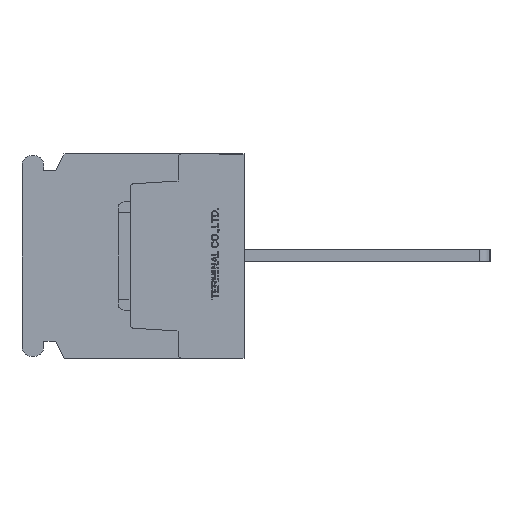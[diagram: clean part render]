
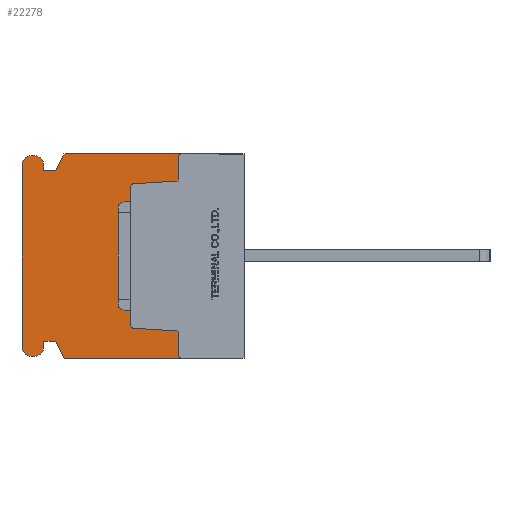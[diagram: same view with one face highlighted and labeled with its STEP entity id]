
A CAD part, left-side view. The second image highlights one B-rep face of the part: STEP entity #22278.
In plain terms, the highlighted planar face has unit normal (-1, 0, 0).
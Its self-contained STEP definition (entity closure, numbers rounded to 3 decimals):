
#1329=CIRCLE('',#23876,0.3);
#1331=CIRCLE('',#23880,0.3);
#1333=CIRCLE('',#23885,0.3);
#1335=CIRCLE('',#23888,0.3);
#1344=CIRCLE('',#24045,0.75);
#1345=CIRCLE('',#24046,0.75);
#1346=CIRCLE('',#24047,0.75);
#1347=CIRCLE('',#24048,0.75);
#2592=VERTEX_POINT('',#33441);
#2593=VERTEX_POINT('',#33443);
#2631=VERTEX_POINT('',#33527);
#2632=VERTEX_POINT('',#33529);
#3089=VERTEX_POINT('',#35135);
#3090=VERTEX_POINT('',#35136);
#3093=VERTEX_POINT('',#35144);
#3107=VERTEX_POINT('',#35174);
#3109=VERTEX_POINT('',#35180);
#3111=VERTEX_POINT('',#35186);
#3113=VERTEX_POINT('',#35192);
#3115=VERTEX_POINT('',#35201);
#3462=VERTEX_POINT('',#36743);
#3463=VERTEX_POINT('',#36745);
#3464=VERTEX_POINT('',#36747);
#3465=VERTEX_POINT('',#36749);
#3466=VERTEX_POINT('',#36751);
#3467=VERTEX_POINT('',#36753);
#3468=VERTEX_POINT('',#36755);
#3469=VERTEX_POINT('',#36757);
#3470=VERTEX_POINT('',#36759);
#3471=VERTEX_POINT('',#36761);
#3472=VERTEX_POINT('',#36763);
#3473=VERTEX_POINT('',#36765);
#4862=VECTOR('',#26849,1.);
#4906=VECTOR('',#26897,1.);
#5370=VECTOR('',#28196,1.);
#5387=VECTOR('',#28220,1.);
#5391=VECTOR('',#28231,1.);
#5394=VECTOR('',#28235,1.);
#5398=VECTOR('',#28252,1.);
#5811=VECTOR('',#28830,1.);
#5812=VECTOR('',#28831,1.);
#5813=VECTOR('',#28832,1.);
#5814=VECTOR('',#28835,1.);
#5815=VECTOR('',#28838,1.);
#5816=VECTOR('',#28841,1.);
#5817=VECTOR('',#28844,1.);
#5818=VECTOR('',#28845,1.);
#5819=VECTOR('',#28846,1.);
#7192=LINE('',#33442,#4862);
#7236=LINE('',#33528,#4906);
#7700=LINE('',#35134,#5370);
#7717=LINE('',#35173,#5387);
#7721=LINE('',#35185,#5391);
#7724=LINE('',#35191,#5394);
#7728=LINE('',#35206,#5398);
#8141=LINE('',#36742,#5811);
#8142=LINE('',#36744,#5812);
#8143=LINE('',#36746,#5813);
#8144=LINE('',#36750,#5814);
#8145=LINE('',#36754,#5815);
#8146=LINE('',#36758,#5816);
#8147=LINE('',#36762,#5817);
#8148=LINE('',#36764,#5818);
#8149=LINE('',#36766,#5819);
#10043=EDGE_CURVE('',#2592,#2593,#7192,.T.);
#10088=EDGE_CURVE('',#2631,#2632,#7236,.T.);
#10807=EDGE_CURVE('',#3089,#3090,#7700,.T.);
#10811=EDGE_CURVE('',#3093,#3089,#1329,.T.);
#10826=EDGE_CURVE('',#3107,#3093,#7717,.T.);
#10829=EDGE_CURVE('',#3109,#3107,#1331,.T.);
#10832=EDGE_CURVE('',#3111,#3109,#7721,.T.);
#10835=EDGE_CURVE('',#3113,#3111,#7724,.T.);
#10838=EDGE_CURVE('',#2632,#3113,#1333,.T.);
#10840=EDGE_CURVE('',#3115,#2592,#1335,.T.);
#10843=EDGE_CURVE('',#3090,#3115,#7728,.T.);
#11367=EDGE_CURVE('',#3462,#2631,#8141,.T.);
#11368=EDGE_CURVE('',#3463,#3462,#8142,.T.);
#11369=EDGE_CURVE('',#3464,#3463,#8143,.T.);
#11370=EDGE_CURVE('',#3465,#3464,#1344,.T.);
#11371=EDGE_CURVE('',#3466,#3465,#8144,.T.);
#11372=EDGE_CURVE('',#3467,#3466,#1345,.T.);
#11373=EDGE_CURVE('',#3468,#3467,#8145,.T.);
#11374=EDGE_CURVE('',#3469,#3468,#1346,.T.);
#11375=EDGE_CURVE('',#3470,#3469,#8146,.T.);
#11376=EDGE_CURVE('',#3471,#3470,#1347,.T.);
#11377=EDGE_CURVE('',#3472,#3471,#8147,.T.);
#11378=EDGE_CURVE('',#3473,#3472,#8148,.T.);
#11379=EDGE_CURVE('',#2593,#3473,#8149,.T.);
#17720=ORIENTED_EDGE('',*,*,#10838,.F.);
#17721=ORIENTED_EDGE('',*,*,#10088,.F.);
#17722=ORIENTED_EDGE('',*,*,#11367,.F.);
#17723=ORIENTED_EDGE('',*,*,#11368,.F.);
#17724=ORIENTED_EDGE('',*,*,#11369,.F.);
#17725=ORIENTED_EDGE('',*,*,#11370,.F.);
#17726=ORIENTED_EDGE('',*,*,#11371,.F.);
#17727=ORIENTED_EDGE('',*,*,#11372,.F.);
#17728=ORIENTED_EDGE('',*,*,#11373,.F.);
#17729=ORIENTED_EDGE('',*,*,#11374,.F.);
#17730=ORIENTED_EDGE('',*,*,#11375,.F.);
#17731=ORIENTED_EDGE('',*,*,#11376,.F.);
#17732=ORIENTED_EDGE('',*,*,#11377,.F.);
#17733=ORIENTED_EDGE('',*,*,#11378,.F.);
#17734=ORIENTED_EDGE('',*,*,#11379,.F.);
#17735=ORIENTED_EDGE('',*,*,#10043,.F.);
#17736=ORIENTED_EDGE('',*,*,#10840,.F.);
#17737=ORIENTED_EDGE('',*,*,#10843,.F.);
#17738=ORIENTED_EDGE('',*,*,#10807,.F.);
#17739=ORIENTED_EDGE('',*,*,#10811,.F.);
#17740=ORIENTED_EDGE('',*,*,#10826,.F.);
#17741=ORIENTED_EDGE('',*,*,#10829,.F.);
#17742=ORIENTED_EDGE('',*,*,#10832,.F.);
#17743=ORIENTED_EDGE('',*,*,#10835,.F.);
#19555=EDGE_LOOP('',(#17720,#17721,#17722,#17723,#17724,#17725,#17726,#17727,
#17728,#17729,#17730,#17731,#17732,#17733,#17734,#17735,#17736,#17737,#17738,
#17739,#17740,#17741,#17742,#17743));
#20987=FACE_BOUND('',#19555,.T.);
#22278=ADVANCED_FACE('',(#20987),#38024,.F.);
#23876=AXIS2_PLACEMENT_3D('',#35143,#28202,#28203);
#23880=AXIS2_PLACEMENT_3D('',#35179,#28225,#28226);
#23885=AXIS2_PLACEMENT_3D('',#35197,#28240,#28241);
#23888=AXIS2_PLACEMENT_3D('',#35200,#28246,#28247);
#24044=AXIS2_PLACEMENT_3D('',#36741,#28829,$);
#24045=AXIS2_PLACEMENT_3D('',#36748,#28833,#28834);
#24046=AXIS2_PLACEMENT_3D('',#36752,#28836,#28837);
#24047=AXIS2_PLACEMENT_3D('',#36756,#28839,#28840);
#24048=AXIS2_PLACEMENT_3D('',#36760,#28842,#28843);
#26849=DIRECTION('',(0.,1.,0.));
#26897=DIRECTION('',(0.,-1.,0.));
#28196=DIRECTION('',(0.,-0.998,-0.062));
#28202=DIRECTION('',(-1.,0.,0.));
#28203=DIRECTION('',(0.,0.,-0.3));
#28220=DIRECTION('',(0.,0.,-1.));
#28225=DIRECTION('',(-1.,0.,0.));
#28226=DIRECTION('',(0.,0.,-0.3));
#28231=DIRECTION('',(0.,0.998,-0.062));
#28235=DIRECTION('',(0.,0.,-1.));
#28240=DIRECTION('',(-1.,0.,0.));
#28241=DIRECTION('',(0.,0.,-0.3));
#28246=DIRECTION('',(-1.,0.,0.));
#28247=DIRECTION('',(0.,0.,-0.3));
#28252=DIRECTION('',(0.,0.,-1.));
#28829=DIRECTION('',(1.,0.,0.));
#28830=DIRECTION('',(0.,-0.447,0.894));
#28831=DIRECTION('',(0.,-1.,0.));
#28832=DIRECTION('',(0.,0.,-1.));
#28833=DIRECTION('',(1.,0.,0.));
#28834=DIRECTION('',(0.,0.,-0.75));
#28835=DIRECTION('',(0.,-1.,0.));
#28836=DIRECTION('',(1.,0.,0.));
#28837=DIRECTION('',(0.,0.,-0.75));
#28838=DIRECTION('',(0.,0.,1.));
#28839=DIRECTION('',(1.,0.,0.));
#28840=DIRECTION('',(0.,0.,-0.75));
#28841=DIRECTION('',(0.,1.,0.));
#28842=DIRECTION('',(1.,0.,0.));
#28843=DIRECTION('',(0.,0.,-0.75));
#28844=DIRECTION('',(0.,0.,-1.));
#28845=DIRECTION('',(0.,1.,0.));
#28846=DIRECTION('',(0.,0.447,0.894));
#33441=CARTESIAN_POINT('',(0.,5.2,-8.5));
#33442=CARTESIAN_POINT('',(0.,0.,-8.5));
#33443=CARTESIAN_POINT('',(0.,15.,-8.5));
#33527=CARTESIAN_POINT('',(0.,15.,8.5));
#33528=CARTESIAN_POINT('',(0.,15.,8.5));
#33529=CARTESIAN_POINT('',(0.,5.2,8.5));
#35134=CARTESIAN_POINT('',(0.,9.219,-6.018));
#35135=CARTESIAN_POINT('',(0.,9.219,-6.018));
#35136=CARTESIAN_POINT('',(0.,5.5,-6.25));
#35143=CARTESIAN_POINT('',(0.,9.2,-5.718));
#35144=CARTESIAN_POINT('',(0.,9.5,-5.718));
#35173=CARTESIAN_POINT('',(0.,9.5,5.718));
#35174=CARTESIAN_POINT('',(0.,9.5,5.718));
#35179=CARTESIAN_POINT('',(0.,9.2,5.718));
#35180=CARTESIAN_POINT('',(0.,9.219,6.018));
#35185=CARTESIAN_POINT('',(0.,5.5,6.25));
#35186=CARTESIAN_POINT('',(0.,5.5,6.25));
#35191=CARTESIAN_POINT('',(0.,5.5,8.2));
#35192=CARTESIAN_POINT('',(0.,5.5,8.2));
#35197=CARTESIAN_POINT('',(0.,5.2,8.2));
#35200=CARTESIAN_POINT('',(0.,5.2,-8.2));
#35201=CARTESIAN_POINT('',(0.,5.5,-8.2));
#35206=CARTESIAN_POINT('',(0.,5.5,-6.25));
#36741=CARTESIAN_POINT('',(0.,9.463,0.));
#36742=CARTESIAN_POINT('',(0.,15.7,7.1));
#36743=CARTESIAN_POINT('',(0.,15.7,7.1));
#36744=CARTESIAN_POINT('',(0.,16.7,7.1));
#36745=CARTESIAN_POINT('',(0.,16.7,7.1));
#36746=CARTESIAN_POINT('',(0.,16.7,7.6));
#36747=CARTESIAN_POINT('',(0.,16.7,7.6));
#36748=CARTESIAN_POINT('',(0.,17.45,7.6));
#36749=CARTESIAN_POINT('',(0.,17.45,8.35));
#36750=CARTESIAN_POINT('',(0.,17.75,8.35));
#36751=CARTESIAN_POINT('',(0.,17.75,8.35));
#36752=CARTESIAN_POINT('',(0.,17.75,7.6));
#36753=CARTESIAN_POINT('',(0.,18.5,7.6));
#36754=CARTESIAN_POINT('',(0.,18.5,-7.6));
#36755=CARTESIAN_POINT('',(0.,18.5,-7.6));
#36756=CARTESIAN_POINT('',(0.,17.75,-7.6));
#36757=CARTESIAN_POINT('',(0.,17.75,-8.35));
#36758=CARTESIAN_POINT('',(0.,17.45,-8.35));
#36759=CARTESIAN_POINT('',(0.,17.45,-8.35));
#36760=CARTESIAN_POINT('',(0.,17.45,-7.6));
#36761=CARTESIAN_POINT('',(0.,16.7,-7.6));
#36762=CARTESIAN_POINT('',(0.,16.7,-7.1));
#36763=CARTESIAN_POINT('',(0.,16.7,-7.1));
#36764=CARTESIAN_POINT('',(0.,15.7,-7.1));
#36765=CARTESIAN_POINT('',(0.,15.7,-7.1));
#36766=CARTESIAN_POINT('',(0.,15.,-8.5));
#38024=PLANE('',#24044);
